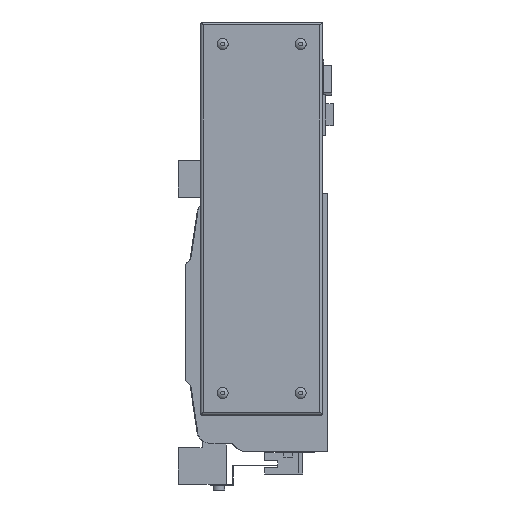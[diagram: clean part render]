
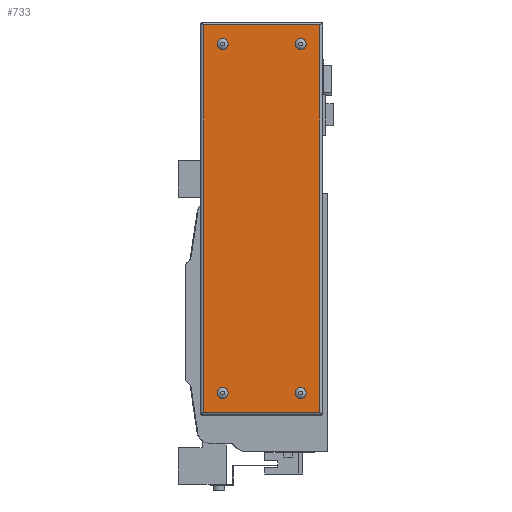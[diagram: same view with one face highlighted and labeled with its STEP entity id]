
A CAD part, left-side view. The second image highlights one B-rep face of the part: STEP entity #733.
In plain terms, the highlighted planar face has unit normal (-1, 0, 0).
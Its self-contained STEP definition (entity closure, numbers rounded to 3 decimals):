
#733 = ADVANCED_FACE( '', ( #1905, #1906, #1907, #1908, #1909 ), #1910, .F. );
#1905 = FACE_BOUND( '', #3728, .T. );
#1906 = FACE_BOUND( '', #3729, .T. );
#1907 = FACE_BOUND( '', #3730, .T. );
#1908 = FACE_BOUND( '', #3731, .T. );
#1909 = FACE_OUTER_BOUND( '', #3732, .T. );
#1910 = PLANE( '', #3733 );
#3728 = EDGE_LOOP( '', ( #5541 ) );
#3729 = EDGE_LOOP( '', ( #5542 ) );
#3730 = EDGE_LOOP( '', ( #5543 ) );
#3731 = EDGE_LOOP( '', ( #5544 ) );
#3732 = EDGE_LOOP( '', ( #5545, #5546, #5547, #5548 ) );
#3733 = AXIS2_PLACEMENT_3D( '', #5549, #5550, #5551 );
#5541 = ORIENTED_EDGE( '', *, *, #10485, .F. );
#5542 = ORIENTED_EDGE( '', *, *, #10486, .F. );
#5543 = ORIENTED_EDGE( '', *, *, #10487, .F. );
#5544 = ORIENTED_EDGE( '', *, *, #10488, .F. );
#5545 = ORIENTED_EDGE( '', *, *, #10489, .F. );
#5546 = ORIENTED_EDGE( '', *, *, #10490, .F. );
#5547 = ORIENTED_EDGE( '', *, *, #10491, .T. );
#5548 = ORIENTED_EDGE( '', *, *, #10492, .T. );
#5549 = CARTESIAN_POINT( '', ( -66., 0., 0. ) );
#5550 = DIRECTION( '', ( 1., 0., 0. ) );
#5551 = DIRECTION( '', ( 0., 0., -1. ) );
#10485 = EDGE_CURVE( '', #12407, #12407, #12408, .F. );
#10486 = EDGE_CURVE( '', #12409, #12409, #12410, .F. );
#10487 = EDGE_CURVE( '', #12411, #12411, #12412, .F. );
#10488 = EDGE_CURVE( '', #12413, #12413, #12414, .F. );
#10489 = EDGE_CURVE( '', #12415, #12416, #12417, .T. );
#10490 = EDGE_CURVE( '', #12418, #12415, #12419, .T. );
#10491 = EDGE_CURVE( '', #12418, #12420, #12421, .T. );
#10492 = EDGE_CURVE( '', #12420, #12416, #12422, .T. );
#12407 = VERTEX_POINT( '', #15272 );
#12408 = CIRCLE( '', #15273, 3.7 );
#12409 = VERTEX_POINT( '', #15274 );
#12410 = CIRCLE( '', #15275, 3.7 );
#12411 = VERTEX_POINT( '', #15276 );
#12412 = CIRCLE( '', #15277, 3.7 );
#12413 = VERTEX_POINT( '', #15278 );
#12414 = CIRCLE( '', #15279, 3.7 );
#12415 = VERTEX_POINT( '', #15280 );
#12416 = VERTEX_POINT( '', #15281 );
#12417 = LINE( '', #15282, #15283 );
#12418 = VERTEX_POINT( '', #15284 );
#12419 = LINE( '', #15285, #15286 );
#12420 = VERTEX_POINT( '', #15287 );
#12421 = LINE( '', #15288, #15289 );
#12422 = LINE( '', #15290, #15291 );
#15272 = CARTESIAN_POINT( '', ( -66., 18.5, 185.3 ) );
#15273 = AXIS2_PLACEMENT_3D( '', #19226, #19227, #19228 );
#15274 = CARTESIAN_POINT( '', ( -66., 18.5, -51.7 ) );
#15275 = AXIS2_PLACEMENT_3D( '', #19229, #19230, #19231 );
#15276 = CARTESIAN_POINT( '', ( -66., 71.5, 185.3 ) );
#15277 = AXIS2_PLACEMENT_3D( '', #19232, #19233, #19234 );
#15278 = CARTESIAN_POINT( '', ( -66., 71.5, -51.7 ) );
#15279 = AXIS2_PLACEMENT_3D( '', #19235, #19236, #19237 );
#15280 = CARTESIAN_POINT( '', ( -66., 5.5, 202. ) );
#15281 = CARTESIAN_POINT( '', ( -66., 5.5, -61. ) );
#15282 = CARTESIAN_POINT( '', ( -66., 5.5, 267. ) );
#15283 = VECTOR( '', #19238, 1000. );
#15284 = CARTESIAN_POINT( '', ( -66., 84.5, 202. ) );
#15285 = CARTESIAN_POINT( '', ( -66., 267., 202. ) );
#15286 = VECTOR( '', #19239, 1000. );
#15287 = CARTESIAN_POINT( '', ( -66., 84.5, -61. ) );
#15288 = CARTESIAN_POINT( '', ( -66., 84.5, 267. ) );
#15289 = VECTOR( '', #19240, 1000. );
#15290 = CARTESIAN_POINT( '', ( -66., 267., -61. ) );
#15291 = VECTOR( '', #19241, 1000. );
#19226 = CARTESIAN_POINT( '', ( -66., 18.5, 189. ) );
#19227 = DIRECTION( '', ( 1., 0., 0. ) );
#19228 = DIRECTION( '', ( 0., 0., -1. ) );
#19229 = CARTESIAN_POINT( '', ( -66., 18.5, -48. ) );
#19230 = DIRECTION( '', ( 1., 0., 0. ) );
#19231 = DIRECTION( '', ( 0., 0., -1. ) );
#19232 = CARTESIAN_POINT( '', ( -66., 71.5, 189. ) );
#19233 = DIRECTION( '', ( 1., 0., 0. ) );
#19234 = DIRECTION( '', ( 0., 0., -1. ) );
#19235 = CARTESIAN_POINT( '', ( -66., 71.5, -48. ) );
#19236 = DIRECTION( '', ( 1., 0., 0. ) );
#19237 = DIRECTION( '', ( 0., 0., -1. ) );
#19238 = DIRECTION( '', ( 0., 0., -1. ) );
#19239 = DIRECTION( '', ( 0., -1., 0. ) );
#19240 = DIRECTION( '', ( 0., 0., -1. ) );
#19241 = DIRECTION( '', ( 0., -1., 0. ) );
